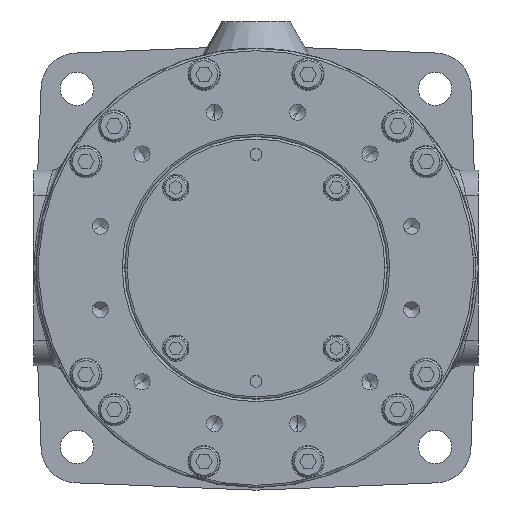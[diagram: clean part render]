
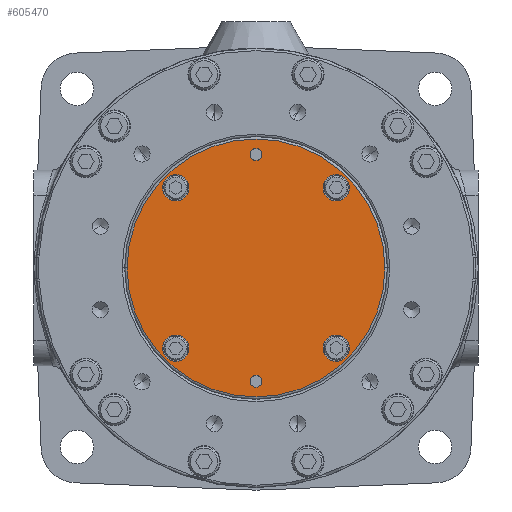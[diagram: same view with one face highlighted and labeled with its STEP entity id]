
A CAD part, left-side view. The second image highlights one B-rep face of the part: STEP entity #605470.
In plain terms, the highlighted planar face has unit normal (-1, 0, 0) as drawn and (1, 0, 0) by its records, which use the part's own axes.
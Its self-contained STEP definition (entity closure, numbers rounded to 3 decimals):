
#604160=CARTESIAN_POINT('',(65.,-54.,0.));
#604170=VERTEX_POINT('',#604160);
#604260=CARTESIAN_POINT('',(65.,54.,0.));
#604270=VERTEX_POINT('',#604260);
#604300=CARTESIAN_POINT('',(65.,0.,0.));
#604310=DIRECTION('',(1.,0.,0.));
#604320=DIRECTION('',(0.,-1.,0.));
#604330=AXIS2_PLACEMENT_3D('',#604300,#604310,#604320);
#604340=CIRCLE('',#604330,54.);
#604350=EDGE_CURVE('',#604270,#604170,#604340,.T.);
#604470=CARTESIAN_POINT('',(65.,-27.,0.));
#604480=DIRECTION('',(-1.,0.,0.));
#604490=DIRECTION('',(0.,1.,0.));
#604500=AXIS2_PLACEMENT_3D('',#604470,#604480,#604490);
#604510=PLANE('',#604500);
#604520=CARTESIAN_POINT('',(65.,33.588,-33.588));
#604530=DIRECTION('',(1.,0.,0.));
#604540=DIRECTION('',(0.,-1.,0.));
#604550=AXIS2_PLACEMENT_3D('',#604520,#604530,#604540);
#604560=CIRCLE('',#604550,5.5);
#604570=CARTESIAN_POINT('',(65.,28.088,-33.588));
#604580=VERTEX_POINT('',#604570);
#604590=CARTESIAN_POINT('',(65.,39.088,-33.588));
#604600=VERTEX_POINT('',#604590);
#604610=EDGE_CURVE('',#604580,#604600,#604560,.T.);
#604620=ORIENTED_EDGE('',*,*,#604610,.F.);
#604630=EDGE_CURVE('',#604600,#604580,#604560,.T.);
#604640=ORIENTED_EDGE('',*,*,#604630,.F.);
#604650=EDGE_LOOP('',(#604640,#604620));
#604660=FACE_BOUND('',#604650,.T.);
#604670=CARTESIAN_POINT('',(65.,-33.588,33.588));
#604680=DIRECTION('',(1.,0.,0.));
#604690=DIRECTION('',(0.,1.,0.));
#604700=AXIS2_PLACEMENT_3D('',#604670,#604680,#604690);
#604710=CIRCLE('',#604700,5.5);
#604720=CARTESIAN_POINT('',(65.,-28.088,33.588));
#604730=VERTEX_POINT('',#604720);
#604740=CARTESIAN_POINT('',(65.,-39.088,33.588));
#604750=VERTEX_POINT('',#604740);
#604760=EDGE_CURVE('',#604730,#604750,#604710,.T.);
#604770=ORIENTED_EDGE('',*,*,#604760,.F.);
#604780=EDGE_CURVE('',#604750,#604730,#604710,.T.);
#604790=ORIENTED_EDGE('',*,*,#604780,.F.);
#604800=EDGE_LOOP('',(#604790,#604770));
#604810=FACE_BOUND('',#604800,.T.);
#604820=CARTESIAN_POINT('',(65.,0.,-47.5)
);
#604830=DIRECTION('',(1.,0.,0.));
#604840=DIRECTION('',(0.,-1.,0.));
#604850=AXIS2_PLACEMENT_3D('',#604820,#604830,#604840);
#604860=CIRCLE('',#604850,2.5);
#604870=CARTESIAN_POINT('',(65.,-2.5,-47.5));
#604880=VERTEX_POINT('',#604870);
#604890=CARTESIAN_POINT('',(65.,2.5,-47.5));
#604900=VERTEX_POINT('',#604890);
#604910=EDGE_CURVE('',#604880,#604900,#604860,.T.);
#604920=ORIENTED_EDGE('',*,*,#604910,.F.);
#604930=EDGE_CURVE('',#604900,#604880,#604860,.T.);
#604940=ORIENTED_EDGE('',*,*,#604930,.F.);
#604950=EDGE_LOOP('',(#604940,#604920));
#604960=FACE_BOUND('',#604950,.T.);
#604970=CARTESIAN_POINT('',(65.,0.,47.5))
;
#604980=DIRECTION('',(1.,0.,0.));
#604990=DIRECTION('',(0.,1.,0.));
#605000=AXIS2_PLACEMENT_3D('',#604970,#604980,#604990);
#605010=CIRCLE('',#605000,2.5);
#605020=CARTESIAN_POINT('',(65.,2.5,47.5));
#605030=VERTEX_POINT('',#605020);
#605040=CARTESIAN_POINT('',(65.,-2.5,47.5));
#605050=VERTEX_POINT('',#605040);
#605060=EDGE_CURVE('',#605030,#605050,#605010,.T.);
#605070=ORIENTED_EDGE('',*,*,#605060,.F.);
#605080=EDGE_CURVE('',#605050,#605030,#605010,.T.);
#605090=ORIENTED_EDGE('',*,*,#605080,.F.);
#605100=EDGE_LOOP('',(#605090,#605070));
#605110=FACE_BOUND('',#605100,.T.);
#605120=CARTESIAN_POINT('',(65.,33.588,33.588));
#605130=DIRECTION('',(1.,0.,0.));
#605140=DIRECTION('',(0.,0.,-1.));
#605150=AXIS2_PLACEMENT_3D('',#605120,#605130,#605140);
#605160=CIRCLE('',#605150,5.5);
#605170=CARTESIAN_POINT('',(65.,33.588,28.088));
#605180=VERTEX_POINT('',#605170);
#605190=CARTESIAN_POINT('',(65.,33.588,39.088));
#605200=VERTEX_POINT('',#605190);
#605210=EDGE_CURVE('',#605180,#605200,#605160,.T.);
#605220=ORIENTED_EDGE('',*,*,#605210,.F.);
#605230=EDGE_CURVE('',#605200,#605180,#605160,.T.);
#605240=ORIENTED_EDGE('',*,*,#605230,.F.);
#605250=EDGE_LOOP('',(#605240,#605220));
#605260=FACE_BOUND('',#605250,.T.);
#605270=EDGE_CURVE('',#604170,#604270,#604340,.T.);
#605280=ORIENTED_EDGE('',*,*,#605270,.T.);
#605290=ORIENTED_EDGE('',*,*,#604350,.T.);
#605300=EDGE_LOOP('',(#605290,#605280));
#605310=FACE_OUTER_BOUND('',#605300,.T.);
#605320=CARTESIAN_POINT('',(65.,-33.588,-33.588));
#605330=DIRECTION('',(1.,0.,0.));
#605340=DIRECTION('',(0.,0.,1.));
#605350=AXIS2_PLACEMENT_3D('',#605320,#605330,#605340);
#605360=CIRCLE('',#605350,5.5);
#605370=CARTESIAN_POINT('',(65.,-33.588,-28.088));
#605380=VERTEX_POINT('',#605370);
#605390=CARTESIAN_POINT('',(65.,-33.588,-39.088));
#605400=VERTEX_POINT('',#605390);
#605410=EDGE_CURVE('',#605380,#605400,#605360,.T.);
#605420=ORIENTED_EDGE('',*,*,#605410,.F.);
#605430=EDGE_CURVE('',#605400,#605380,#605360,.T.);
#605440=ORIENTED_EDGE('',*,*,#605430,.F.);
#605450=EDGE_LOOP('',(#605440,#605420));
#605460=FACE_BOUND('',#605450,.T.);
#605470=ADVANCED_FACE('',(#604660,#604810,#604960,#605110,#605260,
#605310,#605460),#604510,.F.);
